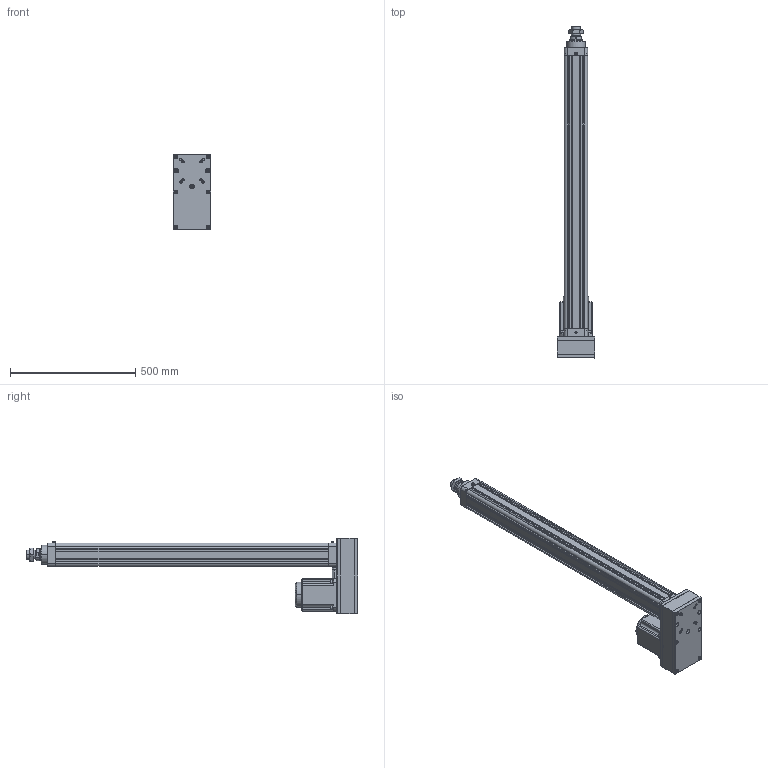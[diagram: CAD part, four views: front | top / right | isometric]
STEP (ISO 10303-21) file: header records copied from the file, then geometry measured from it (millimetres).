
FILE_DESCRIPTION((''),'2;1');
FILE_NAME('ASM0003_ASM','2020-04-01T',('ASUS20200'),(''),'CREO PARAMETRIC BY PTC INC, 2014190','CREO PARAMETRIC BY PTC INC, 2014190','');
FILE_SCHEMA(('CONFIG_CONTROL_DESIGN'));
Length unit declared in the file: millimetre
Products named in the file (25): HE80-D-P-001-X1; HE80-D-P-002-X1; HE80-D-P-003-X1; 30304J; YZ-M6X1; SLM-01; JDB506030; HE80-100-D-P-X1_ASM; HE80-P-010-X1-130N; 130ST-M10010; M10X25; HE80-P-009-X1-130N; HE80-P-013-X1-130N; TD-8; M8X35; M8X75; LM-M8-7-5; M10X1-25-40; LM-M10-30; LM-M10; HE80-D-P-005-X1; HE80-D-P-004-X1; HE80-D-P-008-X1; LGLM-M10-25; ASM0003_ASM
Assembly tree (45 placements, depth 3):
  ASM0003_ASM
    HE80-100-D-P-X1_ASM
      HE80-D-P-001-X1
      HE80-D-P-002-X1
      HE80-D-P-003-X1
      30304J  x2
      YZ-M6X1
      SLM-01
      JDB506030
    HE80-P-010-X1-130N
    130ST-M10010
    M10X25  x4
    HE80-P-009-X1-130N
    HE80-P-013-X1-130N
    TD-8  x4
    M8X35  x4
    M8X75  x6
    LM-M8-7-5  x4
    M10X1-25-40
    LM-M10-30
    LM-M10
    HE80-D-P-005-X1
    HE80-D-P-004-X1
    HE80-D-P-008-X1
    LGLM-M10-25  x4
Bounding box: 150 x 1324 x 300 mm (x, y, z)
Volume: 7366633.6 mm3; surface area: 1899481.7 mm2
Topology: 44 solids, 83 shells, 2039 faces, 4721 edges, 2872 vertices
Faces by surface type: plane 711, cone 632, cylinder 564, torus 102, sphere 26, bspline 4
Entity records: 45932 total; most frequent: CARTESIAN_POINT 9034, DIRECTION 8184, ORIENTED_EDGE 7038, EDGE_CURVE 3589, AXIS2_PLACEMENT_3D 3179, VERTEX_POINT 2185, VECTOR 1826, LINE 1826
